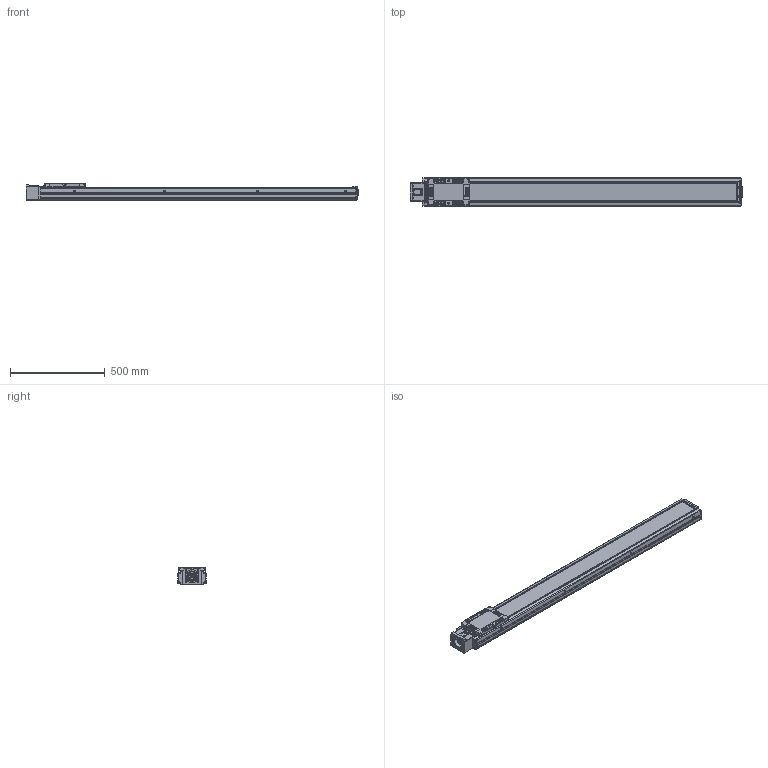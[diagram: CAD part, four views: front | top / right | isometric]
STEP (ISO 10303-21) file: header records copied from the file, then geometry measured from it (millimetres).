
FILE_DESCRIPTION(('STEP AP214'),'1');
FILE_NAME('Z:/Web/3D/SAN150/2013.04 (STP.)/SAN150ㅁㅁ-1400S.stp','2013-05-07T08:31:50',(' '),(' '),'Spatial InterOp 3D',' ',' ');
FILE_SCHEMA(('automotive_design'));
Length unit declared in the file: millimetre
Products named in the file (79): SLBL-SAN150; SLCV-SAN150; FHCS M4.0 x 8.0; BHCS M4.0 x 10.0; SFX-SAN150; RRCV-SAN150; FRBL-SAN150; Spacer; RN15; FRCV-SAN150; Screw 20; BASE-SAN150-000L ; SUS COVER; 스크루 : Round - M5.0 x 6.0; BHCS M3.0 x 6.0; SSFX-SAN65; CPLCV-SAN65; SDWA47C(2); SDWA47C(3-1); SDWA47C(3); SDWA47C(1); SDWA47C(4); SDWA47C(5); MTHZ-SAN150-80
Bounding box: 1749 x 150 x 90 mm (x, y, z)
Volume: 9040592.3 mm3; surface area: 1683802.6 mm2
Topology: 79 solids, 79 shells, 3125 faces, 8116 edges, 5210 vertices
Faces by surface type: cylinder 1295, plane 1268, cone 453, sphere 64, bspline 29, torus 16
Entity records: 126650 total; most frequent: CARTESIAN_POINT 21252, DIRECTION 17667, ORIENTED_EDGE 15936, EDGE_CURVE 7968, AXIS2_PLACEMENT_3D 6716, VERTEX_POINT 5210, LINE 4235, VECTOR 4235
